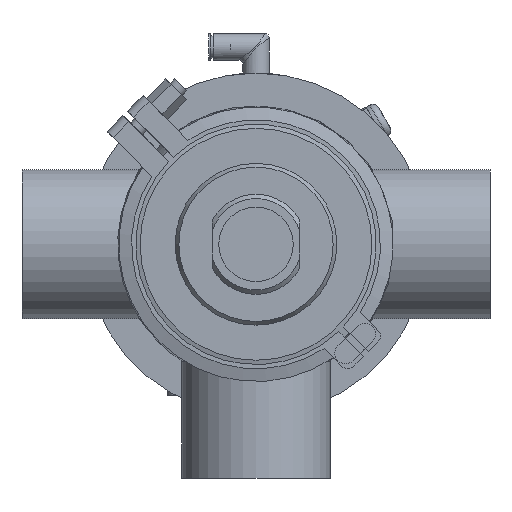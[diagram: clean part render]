
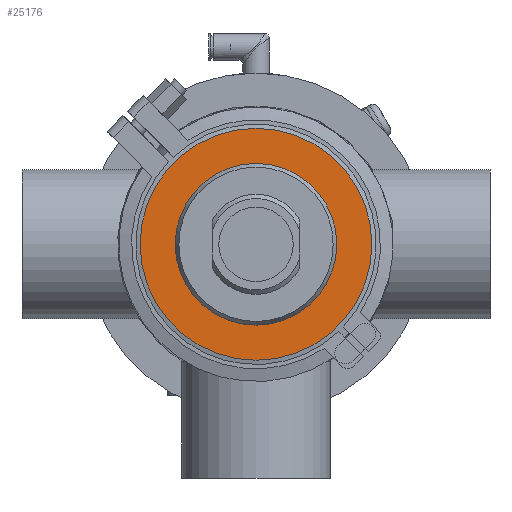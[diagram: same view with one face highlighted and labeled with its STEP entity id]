
A CAD part, front view. The second image highlights one B-rep face of the part: STEP entity #25176.
In plain terms, the highlighted planar face has unit normal (0, -1, 0).
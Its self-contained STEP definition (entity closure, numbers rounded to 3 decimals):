
#2548 = EDGE_CURVE ( 'NONE', #60425, #60425, #32206, .T. ) ;
#3337 = CARTESIAN_POINT ( 'NONE',  ( 0., -13., 0. ) ) ;
#6682 = EDGE_LOOP ( 'NONE', ( #38206 ) ) ;
#7457 = CARTESIAN_POINT ( 'NONE',  ( -54.5, -13., 0. ) ) ;
#16351 = FACE_OUTER_BOUND ( 'NONE', #54596, .T. ) ;
#18534 = AXIS2_PLACEMENT_3D ( 'NONE', #7457, #40749, #60700 ) ;
#18917 = AXIS2_PLACEMENT_3D ( 'NONE', #22734, #42079, #61424 ) ;
#21706 = PLANE ( 'NONE',  #18534 ) ;
#22734 = CARTESIAN_POINT ( 'NONE',  ( 0., -13., 0. ) ) ;
#24101 = AXIS2_PLACEMENT_3D ( 'NONE', #3337, #36016, #50269 ) ;
#25176 = ADVANCED_FACE ( 'NONE', ( #61009, #16351 ), #21706, .T. ) ;
#32206 = CIRCLE ( 'NONE', #24101, 38. ) ;
#33865 = CARTESIAN_POINT ( 'NONE',  ( 0., -13., 54.5 ) ) ;
#35872 = EDGE_CURVE ( 'NONE', #48114, #48114, #46230, .T. ) ;
#36016 = DIRECTION ( 'NONE',  ( 0., 1., 0. ) ) ;
#37678 = ORIENTED_EDGE ( 'NONE', *, *, #35872, .F. ) ;
#38206 = ORIENTED_EDGE ( 'NONE', *, *, #2548, .T. ) ;
#40749 = DIRECTION ( 'NONE',  ( 0., -1., 0. ) ) ;
#42079 = DIRECTION ( 'NONE',  ( 0., 1., 0. ) ) ;
#46230 = CIRCLE ( 'NONE', #18917, 54.5 ) ;
#48114 = VERTEX_POINT ( 'NONE', #33865 ) ;
#50269 = DIRECTION ( 'NONE',  ( 0., 0., 1. ) ) ;
#54596 = EDGE_LOOP ( 'NONE', ( #37678 ) ) ;
#60425 = VERTEX_POINT ( 'NONE', #61666 ) ;
#60700 = DIRECTION ( 'NONE',  ( 0., 0., -1. ) ) ;
#61009 = FACE_BOUND ( 'NONE', #6682, .T. ) ;
#61424 = DIRECTION ( 'NONE',  ( 0., 0., 1. ) ) ;
#61666 = CARTESIAN_POINT ( 'NONE',  ( 0., -13., 38. ) ) ;
